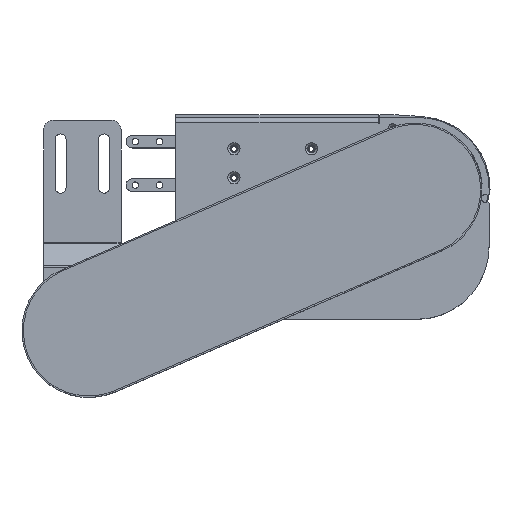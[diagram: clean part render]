
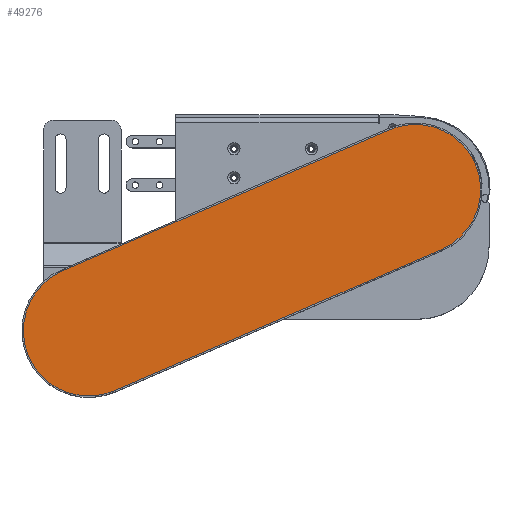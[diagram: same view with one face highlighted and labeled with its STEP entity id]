
A CAD part, top view. The second image highlights one B-rep face of the part: STEP entity #49276.
In plain terms, the highlighted planar face has unit normal (0, 0, 1).
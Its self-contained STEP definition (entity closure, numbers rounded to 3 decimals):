
#138 = AXIS2_PLACEMENT_3D ( 'NONE', #34108, #29495, #58476 ) ;
#1237 = DIRECTION ( 'NONE',  ( 1., 0., 0. ) ) ;
#3296 = CIRCLE ( 'NONE', #54053, 67.5 ) ;
#4091 = VERTEX_POINT ( 'NONE', #5817 ) ;
#4426 = FACE_OUTER_BOUND ( 'NONE', #12685, .T. ) ;
#5361 = PLANE ( 'NONE',  #35939 ) ;
#5817 = CARTESIAN_POINT ( 'NONE',  ( -184., 67.5, 2. ) ) ;
#9151 = CIRCLE ( 'NONE', #10816, 67.5 ) ;
#10204 = DIRECTION ( 'NONE',  ( 1., 0., 0. ) ) ;
#10442 = EDGE_CURVE ( 'NONE', #36633, #23964, #32091, .T. ) ;
#10816 = AXIS2_PLACEMENT_3D ( 'NONE', #15452, #48934, #20286 ) ;
#11182 = CARTESIAN_POINT ( 'NONE',  ( -184., -67.5, 2. ) ) ;
#11548 = DIRECTION ( 'NONE',  ( -1., 0., 0. ) ) ;
#12685 = EDGE_LOOP ( 'NONE', ( #30428, #21770, #53087, #44925, #22764 ) ) ;
#13869 = LINE ( 'NONE', #35472, #25136 ) ;
#14008 = CARTESIAN_POINT ( 'NONE',  ( 184., 0., 2. ) ) ;
#15452 = CARTESIAN_POINT ( 'NONE',  ( -184., 0., 2. ) ) ;
#16335 = LINE ( 'NONE', #49045, #52972 ) ;
#18840 = DIRECTION ( 'NONE',  ( 1., 0., 0. ) ) ;
#19498 = CARTESIAN_POINT ( 'NONE',  ( -184., 0., 2. ) ) ;
#20286 = DIRECTION ( 'NONE',  ( 1., 0., 0. ) ) ;
#20852 = CARTESIAN_POINT ( 'NONE',  ( -251.5, 0., 2. ) ) ;
#21770 = ORIENTED_EDGE ( 'NONE', *, *, #10442, .T. ) ;
#22764 = ORIENTED_EDGE ( 'NONE', *, *, #36009, .T. ) ;
#23964 = VERTEX_POINT ( 'NONE', #11182 ) ;
#25136 = VECTOR ( 'NONE', #11548, 1000. ) ;
#25848 = VERTEX_POINT ( 'NONE', #32104 ) ;
#29131 = EDGE_CURVE ( 'NONE', #23964, #53739, #16335, .T. ) ;
#29495 = DIRECTION ( 'NONE',  ( 0., 0., 1. ) ) ;
#30305 = CARTESIAN_POINT ( 'NONE',  ( 184., -67.5, 2. ) ) ;
#30428 = ORIENTED_EDGE ( 'NONE', *, *, #45819, .T. ) ;
#32091 = CIRCLE ( 'NONE', #138, 67.5 ) ;
#32104 = CARTESIAN_POINT ( 'NONE',  ( 184., 67.5, 2. ) ) ;
#34108 = CARTESIAN_POINT ( 'NONE',  ( -184., 0., 2. ) ) ;
#35472 = CARTESIAN_POINT ( 'NONE',  ( -184., 67.5, 2. ) ) ;
#35939 = AXIS2_PLACEMENT_3D ( 'NONE', #19498, #38951, #10204 ) ;
#36009 = EDGE_CURVE ( 'NONE', #25848, #4091, #13869, .T. ) ;
#36633 = VERTEX_POINT ( 'NONE', #20852 ) ;
#38951 = DIRECTION ( 'NONE',  ( 0., 0., 1. ) ) ;
#44925 = ORIENTED_EDGE ( 'NONE', *, *, #59592, .T. ) ;
#45819 = EDGE_CURVE ( 'NONE', #4091, #36633, #9151, .T. ) ;
#47504 = DIRECTION ( 'NONE',  ( 0., 0., 1. ) ) ;
#48934 = DIRECTION ( 'NONE',  ( 0., 0., 1. ) ) ;
#49045 = CARTESIAN_POINT ( 'NONE',  ( -184., -67.5, 2. ) ) ;
#49276 = ADVANCED_FACE ( 'NONE', ( #4426 ), #5361, .T. ) ;
#52972 = VECTOR ( 'NONE', #1237, 1000. ) ;
#53087 = ORIENTED_EDGE ( 'NONE', *, *, #29131, .T. ) ;
#53739 = VERTEX_POINT ( 'NONE', #30305 ) ;
#54053 = AXIS2_PLACEMENT_3D ( 'NONE', #14008, #47504, #18840 ) ;
#58476 = DIRECTION ( 'NONE',  ( 1., 0., 0. ) ) ;
#59592 = EDGE_CURVE ( 'NONE', #53739, #25848, #3296, .T. ) ;
